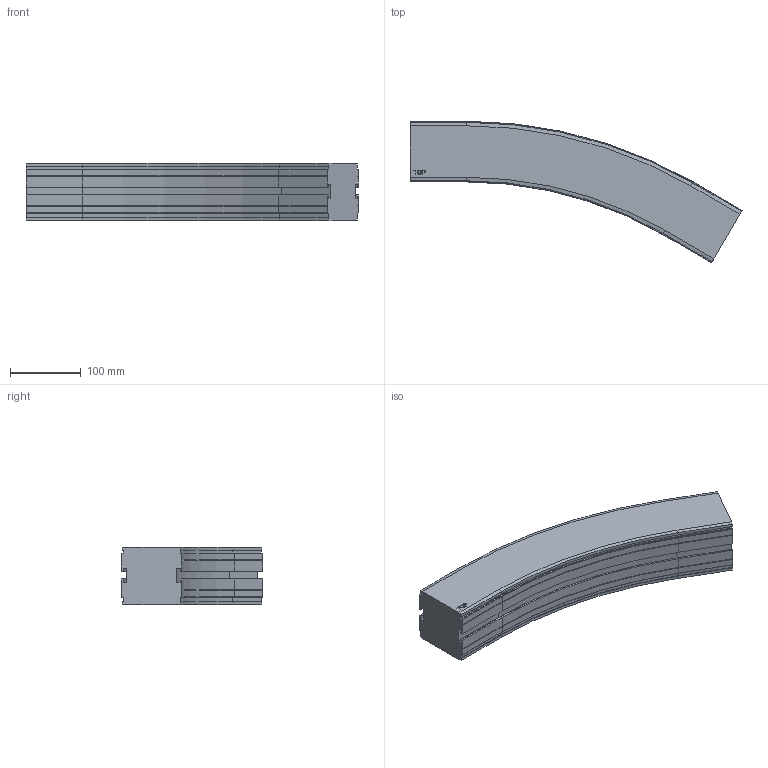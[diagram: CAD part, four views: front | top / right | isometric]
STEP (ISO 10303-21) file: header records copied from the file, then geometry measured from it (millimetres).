
FILE_DESCRIPTION((''),'2;1');
FILE_NAME('C:\Vault Klient\Projekt\Koncept konstruktion\Serie 830 Balk\830-5340.stp','2009-11-27T10:24:00',('Mathias'),(''),'Autodesk Inventor 2010','Autodesk Inventor 2010','');
FILE_SCHEMA(('AUTOMOTIVE_DESIGN { 1 0 10303 214 1 1 1 1 }'));
Length unit declared in the file: millimetre
Products named in the file (1): 830-5340
Bounding box: 470.78 x 200.62 x 81.5 mm (x, y, z)
Volume: 3151679.4 mm3; surface area: 207041.2 mm2
Topology: 1 solids, 1 shells, 169 faces, 446 edges, 284 vertices
Faces by surface type: plane 109, cylinder 30, bspline 14, cone 12, torus 4
Entity records: 5295 total; most frequent: CARTESIAN_POINT 1094, ORIENTED_EDGE 892, DIRECTION 802, EDGE_CURVE 446, VECTOR 346, LINE 346, VERTEX_POINT 284, AXIS2_PLACEMENT_3D 228
